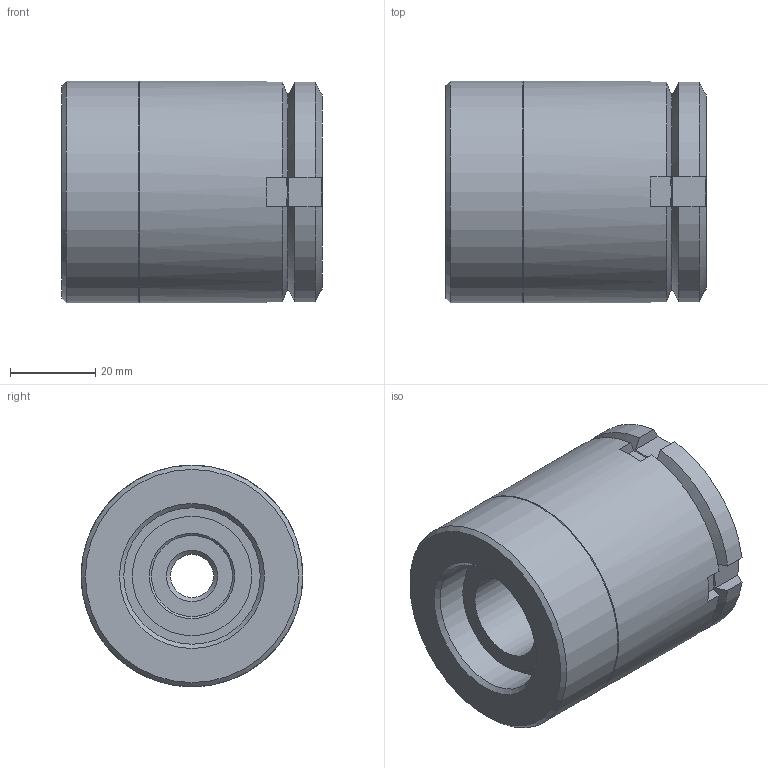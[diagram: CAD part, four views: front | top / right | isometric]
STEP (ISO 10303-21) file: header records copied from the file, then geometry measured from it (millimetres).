
FILE_DESCRIPTION( ( 'STEP AP203' ), '1' );
FILE_NAME( 'C:/Temp/Ganter_Step_05_03_2020/data/3_2/gn360/gn360_ni/Stainless Steel-Levelling set GN 360-52-M12-80-A-NI (0-0).stp', '2020-03-13T05:42:02', ( 'License CC BY-ND 4.0' ), ( 'CADENAS' ), ' ', 'PARTsolutions', ' ' );
FILE_SCHEMA( ( 'CONFIG_CONTROL_DESIGN' ) );
Length unit declared in the file: millimetre
Products named in the file (4): Stainless Steel-Levelling set GN 360-52-M12-80-A-NI (0-0); _Stainless Steel-Levelling set GN 360-52-M12-80-A-NI (0-0)-1; _Stainless Steel-Levelling set GN 360-52-M12-80-A-NI (0-0)-2; _Stainless Steel-Levelling set GN 360-52-M12-80-A-NI (0-0)-3
Assembly tree (3 placements, depth 2):
  Stainless Steel-Levelling set GN 360-52-M12-80-A-NI (0-0)
    _Stainless Steel-Levelling set GN 360-52-M12-80-A-NI (0-0)-1
    _Stainless Steel-Levelling set GN 360-52-M12-80-A-NI (0-0)-2
    _Stainless Steel-Levelling set GN 360-52-M12-80-A-NI (0-0)-3
Bounding box: 61 x 52 x 52 mm (x, y, z)
Volume: 108575.5 mm3; surface area: 32740.3 mm2
Topology: 3 solids, 3 shells, 72 faces, 167 edges, 107 vertices
Faces by surface type: plane 40, cylinder 17, cone 12, sphere 2, torus 1
Full cylindrical faces by diameter (mm): 10.106 x1, 19 x1, 20 x1, 22.5 x1, 27 x1, 28 x1, 32 x1, 34 x1, 34.376 x1, 36 x1, 36.5 x1, 52 x2
Entity records: 2129 total; most frequent: CARTESIAN_POINT 508, DIRECTION 304, ORIENTED_EDGE 268, EDGE_CURVE 134, AXIS2_PLACEMENT_3D 130, EDGE_LOOP 112, VERTEX_POINT 102, FACE_OUTER_BOUND 88
